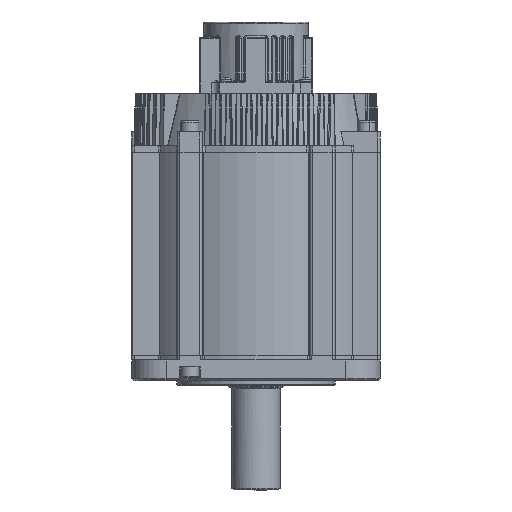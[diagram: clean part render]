
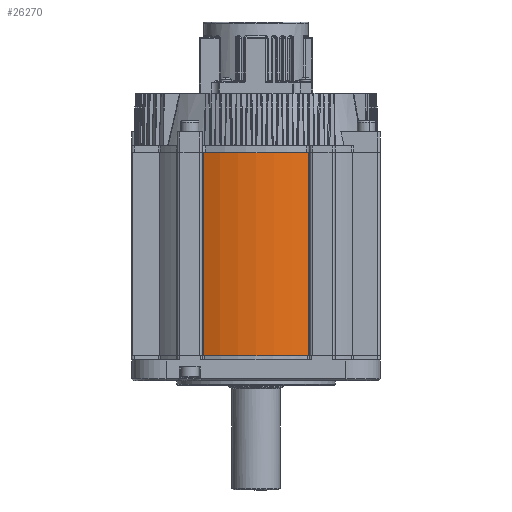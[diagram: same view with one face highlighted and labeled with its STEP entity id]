
A CAD part, front view. The second image highlights one B-rep face of the part: STEP entity #26270.
In plain terms, the highlighted cylindrical face has radius 90 mm (diameter 180 mm), a partial arc.
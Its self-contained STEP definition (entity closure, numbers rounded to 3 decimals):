
#264 = CARTESIAN_POINT ( 'NONE',  ( 38.287, -81.45, 45. ) ) ;
#868 = DIRECTION ( 'NONE',  ( 0., 0., 1. ) ) ;
#7435 = VECTOR ( 'NONE', #80928, 1000. ) ;
#7669 = CIRCLE ( 'NONE', #56058, 90. ) ;
#7870 = CARTESIAN_POINT ( 'NONE',  ( 0., 0., 45. ) ) ;
#8693 = ORIENTED_EDGE ( 'NONE', *, *, #50125, .F. ) ;
#9360 = FACE_OUTER_BOUND ( 'NONE', #23961, .T. ) ;
#11249 = ORIENTED_EDGE ( 'NONE', *, *, #20606, .T. ) ;
#20165 = ORIENTED_EDGE ( 'NONE', *, *, #58013, .F. ) ;
#20606 = EDGE_CURVE ( 'NONE', #43124, #44810, #78990, .T. ) ;
#20755 = CARTESIAN_POINT ( 'NONE',  ( -38.287, -81.45, 192. ) ) ;
#22109 = DIRECTION ( 'NONE',  ( -1., 0., 0. ) ) ;
#23961 = EDGE_LOOP ( 'NONE', ( #11249, #39794, #20165, #8693 ) ) ;
#25535 = CARTESIAN_POINT ( 'NONE',  ( -38.287, -81.45, 45. ) ) ;
#26270 = ADVANCED_FACE ( 'NONE', ( #9360 ), #55946, .T. ) ;
#26948 = AXIS2_PLACEMENT_3D ( 'NONE', #46069, #60795, #22109 ) ;
#27193 = CARTESIAN_POINT ( 'NONE',  ( 38.287, -81.45, 192. ) ) ;
#29643 = CARTESIAN_POINT ( 'NONE',  ( -38.287, -81.45, 192. ) ) ;
#36920 = CIRCLE ( 'NONE', #87937, 90. ) ;
#39794 = ORIENTED_EDGE ( 'NONE', *, *, #91546, .T. ) ;
#43124 = VERTEX_POINT ( 'NONE', #20755 ) ;
#44810 = VERTEX_POINT ( 'NONE', #25535 ) ;
#45620 = DIRECTION ( 'NONE',  ( 0., 0., -1. ) ) ;
#46069 = CARTESIAN_POINT ( 'NONE',  ( 0., 0., 192. ) ) ;
#50125 = EDGE_CURVE ( 'NONE', #43124, #75319, #7669, .T. ) ;
#55946 = CYLINDRICAL_SURFACE ( 'NONE', #26948, 90. ) ;
#56058 = AXIS2_PLACEMENT_3D ( 'NONE', #82432, #89065, #97729 ) ;
#56290 = VECTOR ( 'NONE', #45620, 1000. ) ;
#58013 = EDGE_CURVE ( 'NONE', #75319, #79153, #80270, .T. ) ;
#60795 = DIRECTION ( 'NONE',  ( 0., 0., -1. ) ) ;
#70140 = CARTESIAN_POINT ( 'NONE',  ( 38.287, -81.45, 192. ) ) ;
#75319 = VERTEX_POINT ( 'NONE', #70140 ) ;
#78990 = LINE ( 'NONE', #29643, #56290 ) ;
#79153 = VERTEX_POINT ( 'NONE', #264 ) ;
#80270 = LINE ( 'NONE', #27193, #7435 ) ;
#80928 = DIRECTION ( 'NONE',  ( 0., 0., -1. ) ) ;
#82432 = CARTESIAN_POINT ( 'NONE',  ( 0., 0., 192. ) ) ;
#83889 = DIRECTION ( 'NONE',  ( -1., 0., 0. ) ) ;
#87937 = AXIS2_PLACEMENT_3D ( 'NONE', #7870, #868, #83889 ) ;
#89065 = DIRECTION ( 'NONE',  ( 0., 0., 1. ) ) ;
#91546 = EDGE_CURVE ( 'NONE', #44810, #79153, #36920, .T. ) ;
#97729 = DIRECTION ( 'NONE',  ( 1., 0., 0. ) ) ;
